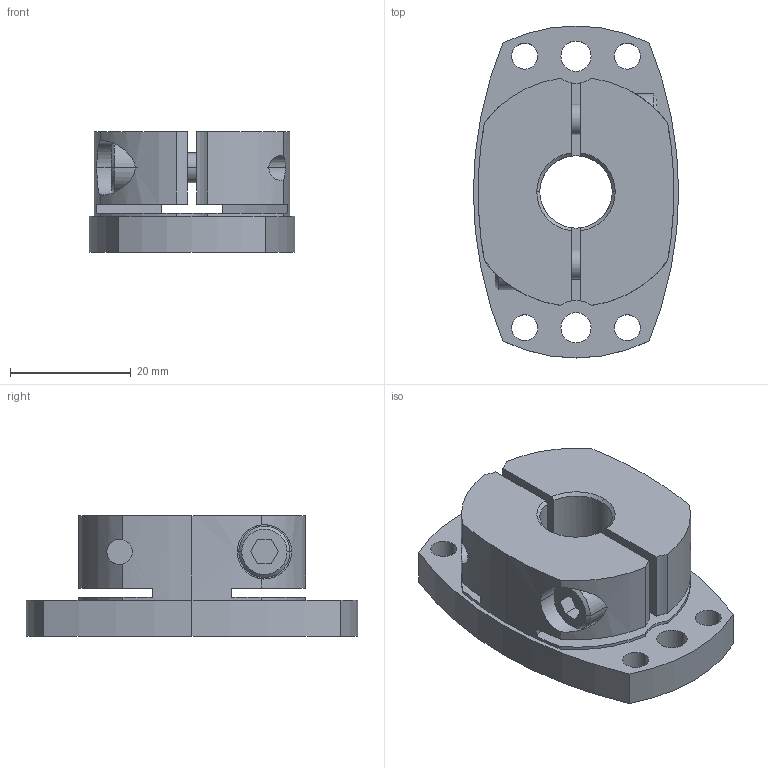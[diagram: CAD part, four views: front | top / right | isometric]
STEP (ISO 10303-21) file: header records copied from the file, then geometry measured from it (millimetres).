
FILE_DESCRIPTION((''),'2;1');
FILE_NAME('SHDB-55B-12.stp','2026-01-28T07:41:25',(''),(''),'AutoCAD STEP 2000i','AutoCAD 2000i',', , ');
FILE_SCHEMA(('CONFIG_CONTROL_DESIGN'));
Length unit declared in the file: millimetre
Products named in the file (2): SHDB-55B-10; 忣兜1
Assembly tree (1 placements, depth 2):
  SHDB-55B-10
    忣兜1
Bounding box: 34 x 55 x 20 mm (x, y, z)
Volume: 19515.7 mm3; surface area: 9204.3 mm2
Topology: 1 solids, 1 shells, 102 faces, 280 edges, 184 vertices
Faces by surface type: cylinder 58, plane 34, cone 10
Entity records: 3683 total; most frequent: CARTESIAN_POINT 856, DIRECTION 602, ORIENTED_EDGE 560, EDGE_CURVE 280, AXIS2_PLACEMENT_3D 238, VERTEX_POINT 184, CIRCLE 134, VECTOR 126
